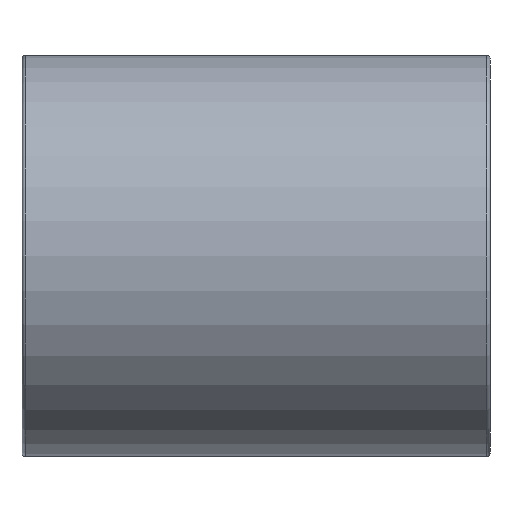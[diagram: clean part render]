
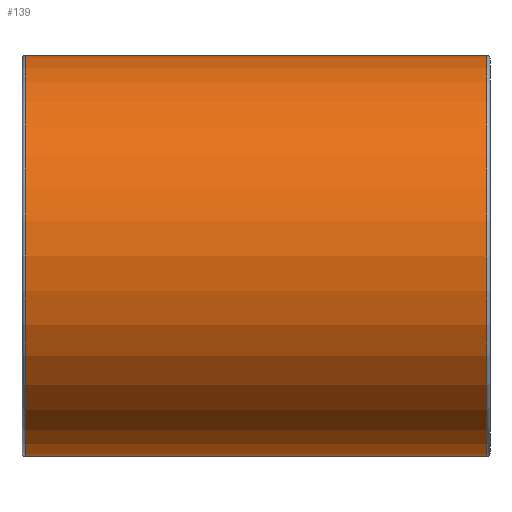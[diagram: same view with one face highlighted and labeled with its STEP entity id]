
A CAD part, front view. The second image highlights one B-rep face of the part: STEP entity #139.
In plain terms, the highlighted cylindrical face has radius 24 mm (diameter 48 mm), a full revolution.
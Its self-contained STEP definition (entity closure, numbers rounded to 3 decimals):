
#16=CYLINDRICAL_SURFACE('',#158,24.);
#27=FACE_BOUND('',#56,.T.);
#39=FACE_OUTER_BOUND('',#55,.T.);
#55=EDGE_LOOP('',(#115));
#56=EDGE_LOOP('',(#116));
#75=CIRCLE('',#157,24.);
#76=CIRCLE('',#159,24.);
#87=VERTEX_POINT('',#236);
#88=VERTEX_POINT('',#239);
#99=EDGE_CURVE('',#87,#87,#75,.T.);
#100=EDGE_CURVE('',#88,#88,#76,.T.);
#115=ORIENTED_EDGE('',*,*,#100,.F.);
#116=ORIENTED_EDGE('',*,*,#99,.F.);
#139=ADVANCED_FACE('',(#39,#27),#16,.T.);
#157=AXIS2_PLACEMENT_3D('',#237,#191,#192);
#158=AXIS2_PLACEMENT_3D('',#238,#193,#194);
#159=AXIS2_PLACEMENT_3D('',#240,#195,#196);
#191=DIRECTION('center_axis',(-1.,0.,0.));
#192=DIRECTION('ref_axis',(0.,-1.,0.));
#193=DIRECTION('center_axis',(1.,0.,0.));
#194=DIRECTION('ref_axis',(0.,1.,0.));
#195=DIRECTION('center_axis',(1.,0.,0.));
#196=DIRECTION('ref_axis',(0.,-1.,0.));
#236=CARTESIAN_POINT('',(-27.6,24.,0.));
#237=CARTESIAN_POINT('Origin',(-27.6,0.,0.));
#238=CARTESIAN_POINT('Origin',(0.,0.,
0.));
#239=CARTESIAN_POINT('',(27.6,24.,0.));
#240=CARTESIAN_POINT('Origin',(27.6,0.,0.));
